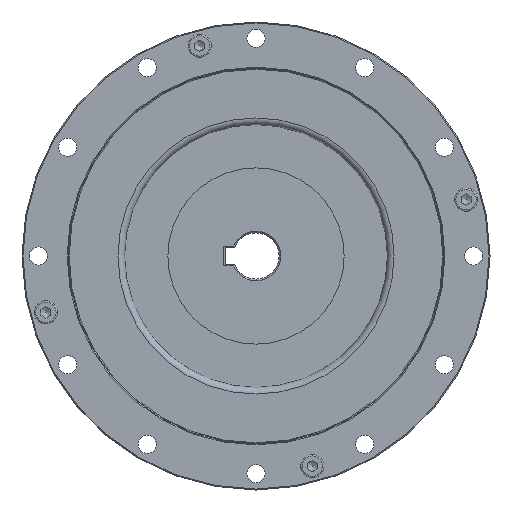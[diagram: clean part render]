
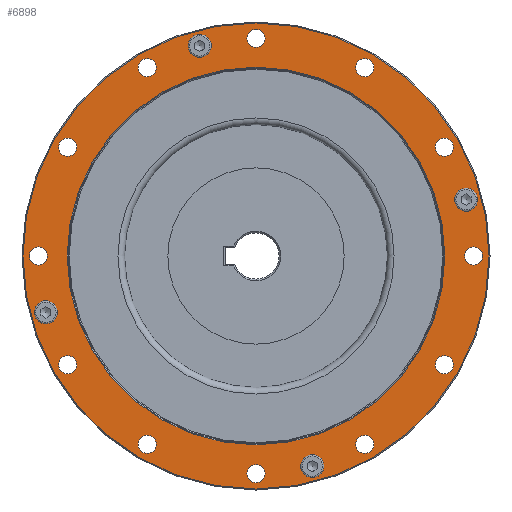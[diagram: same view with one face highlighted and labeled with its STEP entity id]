
A CAD part, left-side view. The second image highlights one B-rep face of the part: STEP entity #6898.
In plain terms, the highlighted planar face has unit normal (-1, 0, 0).
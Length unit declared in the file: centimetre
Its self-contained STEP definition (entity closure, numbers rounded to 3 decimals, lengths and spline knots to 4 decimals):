
#989=FACE_BOUND('',#2037,.T.);
#990=FACE_BOUND('',#2038,.T.);
#991=FACE_BOUND('',#2039,.T.);
#992=FACE_BOUND('',#2040,.T.);
#993=FACE_BOUND('',#2041,.T.);
#994=FACE_BOUND('',#2042,.T.);
#995=FACE_BOUND('',#2043,.T.);
#996=FACE_BOUND('',#2044,.T.);
#997=FACE_BOUND('',#2045,.T.);
#998=FACE_BOUND('',#2046,.T.);
#999=FACE_BOUND('',#2047,.T.);
#1000=FACE_BOUND('',#2048,.T.);
#1001=FACE_BOUND('',#2049,.T.);
#1002=FACE_BOUND('',#2050,.T.);
#1003=FACE_BOUND('',#2051,.T.);
#1004=FACE_BOUND('',#2052,.T.);
#1005=FACE_BOUND('',#2053,.T.);
#1407=FACE_OUTER_BOUND('',#2036,.T.);
#2036=EDGE_LOOP('',(#5571));
#2037=EDGE_LOOP('',(#5572));
#2038=EDGE_LOOP('',(#5573));
#2039=EDGE_LOOP('',(#5574));
#2040=EDGE_LOOP('',(#5575));
#2041=EDGE_LOOP('',(#5576));
#2042=EDGE_LOOP('',(#5577));
#2043=EDGE_LOOP('',(#5578));
#2044=EDGE_LOOP('',(#5579));
#2045=EDGE_LOOP('',(#5580));
#2046=EDGE_LOOP('',(#5581));
#2047=EDGE_LOOP('',(#5582));
#2048=EDGE_LOOP('',(#5583));
#2049=EDGE_LOOP('',(#5584));
#2050=EDGE_LOOP('',(#5585));
#2051=EDGE_LOOP('',(#5586));
#2052=EDGE_LOOP('',(#5587));
#2053=EDGE_LOOP('',(#5588));
#2552=CIRCLE('',#7591,0.35);
#2555=CIRCLE('',#7604,0.35);
#2669=CIRCLE('',#7842,0.275);
#2670=CIRCLE('',#7844,0.275);
#2671=CIRCLE('',#7846,0.275);
#2672=CIRCLE('',#7848,0.275);
#2673=CIRCLE('',#7850,0.275);
#2674=CIRCLE('',#7852,0.275);
#2675=CIRCLE('',#7854,0.275);
#2676=CIRCLE('',#7856,0.275);
#2677=CIRCLE('',#7858,0.275);
#2678=CIRCLE('',#7860,0.275);
#2679=CIRCLE('',#7862,0.275);
#2680=CIRCLE('',#7864,0.275);
#2682=CIRCLE('',#7867,5.73);
#2686=CIRCLE('',#7876,7.07);
#2687=CIRCLE('',#7877,0.35);
#2688=CIRCLE('',#7878,0.35);
#3034=VERTEX_POINT('',#11286);
#3049=VERTEX_POINT('',#11344);
#3193=VERTEX_POINT('',#11810);
#3194=VERTEX_POINT('',#11813);
#3195=VERTEX_POINT('',#11816);
#3196=VERTEX_POINT('',#11819);
#3197=VERTEX_POINT('',#11822);
#3198=VERTEX_POINT('',#11825);
#3199=VERTEX_POINT('',#11828);
#3200=VERTEX_POINT('',#11831);
#3201=VERTEX_POINT('',#11834);
#3202=VERTEX_POINT('',#11837);
#3203=VERTEX_POINT('',#11840);
#3204=VERTEX_POINT('',#11843);
#3206=VERTEX_POINT('',#11848);
#3210=VERTEX_POINT('',#11861);
#3211=VERTEX_POINT('',#11863);
#3212=VERTEX_POINT('',#11865);
#3802=EDGE_CURVE('',#3034,#3034,#2552,.T.);
#3823=EDGE_CURVE('',#3049,#3049,#2555,.T.);
#3985=EDGE_CURVE('',#3193,#3193,#2669,.T.);
#3986=EDGE_CURVE('',#3194,#3194,#2670,.T.);
#3987=EDGE_CURVE('',#3195,#3195,#2671,.T.);
#3988=EDGE_CURVE('',#3196,#3196,#2672,.T.);
#3989=EDGE_CURVE('',#3197,#3197,#2673,.T.);
#3990=EDGE_CURVE('',#3198,#3198,#2674,.T.);
#3991=EDGE_CURVE('',#3199,#3199,#2675,.T.);
#3992=EDGE_CURVE('',#3200,#3200,#2676,.T.);
#3993=EDGE_CURVE('',#3201,#3201,#2677,.T.);
#3994=EDGE_CURVE('',#3202,#3202,#2678,.T.);
#3995=EDGE_CURVE('',#3203,#3203,#2679,.T.);
#3996=EDGE_CURVE('',#3204,#3204,#2680,.T.);
#3998=EDGE_CURVE('',#3206,#3206,#2682,.T.);
#4002=EDGE_CURVE('',#3210,#3210,#2686,.T.);
#4003=EDGE_CURVE('',#3211,#3211,#2687,.T.);
#4004=EDGE_CURVE('',#3212,#3212,#2688,.T.);
#5571=ORIENTED_EDGE('',*,*,#4002,.F.);
#5572=ORIENTED_EDGE('',*,*,#4003,.T.);
#5573=ORIENTED_EDGE('',*,*,#3802,.T.);
#5574=ORIENTED_EDGE('',*,*,#4004,.T.);
#5575=ORIENTED_EDGE('',*,*,#3823,.T.);
#5576=ORIENTED_EDGE('',*,*,#3998,.F.);
#5577=ORIENTED_EDGE('',*,*,#3996,.T.);
#5578=ORIENTED_EDGE('',*,*,#3995,.T.);
#5579=ORIENTED_EDGE('',*,*,#3994,.T.);
#5580=ORIENTED_EDGE('',*,*,#3993,.T.);
#5581=ORIENTED_EDGE('',*,*,#3992,.T.);
#5582=ORIENTED_EDGE('',*,*,#3991,.T.);
#5583=ORIENTED_EDGE('',*,*,#3990,.T.);
#5584=ORIENTED_EDGE('',*,*,#3989,.T.);
#5585=ORIENTED_EDGE('',*,*,#3988,.T.);
#5586=ORIENTED_EDGE('',*,*,#3987,.T.);
#5587=ORIENTED_EDGE('',*,*,#3986,.T.);
#5588=ORIENTED_EDGE('',*,*,#3985,.T.);
#6025=PLANE('',#7875);
#6898=ADVANCED_FACE('',(#1407,#989,#990,#991,#992,#993,#994,#995,#996,#997,
#998,#999,#1000,#1001,#1002,#1003,#1004,#1005),#6025,.T.);
#7591=AXIS2_PLACEMENT_3D('',#11287,#9323,#9324);
#7604=AXIS2_PLACEMENT_3D('',#11345,#9361,#9362);
#7842=AXIS2_PLACEMENT_3D('',#11811,#9867,#9868);
#7844=AXIS2_PLACEMENT_3D('',#11814,#9871,#9872);
#7846=AXIS2_PLACEMENT_3D('',#11817,#9875,#9876);
#7848=AXIS2_PLACEMENT_3D('',#11820,#9879,#9880);
#7850=AXIS2_PLACEMENT_3D('',#11823,#9883,#9884);
#7852=AXIS2_PLACEMENT_3D('',#11826,#9887,#9888);
#7854=AXIS2_PLACEMENT_3D('',#11829,#9891,#9892);
#7856=AXIS2_PLACEMENT_3D('',#11832,#9895,#9896);
#7858=AXIS2_PLACEMENT_3D('',#11835,#9899,#9900);
#7860=AXIS2_PLACEMENT_3D('',#11838,#9903,#9904);
#7862=AXIS2_PLACEMENT_3D('',#11841,#9907,#9908);
#7864=AXIS2_PLACEMENT_3D('',#11844,#9911,#9912);
#7867=AXIS2_PLACEMENT_3D('',#11849,#9917,#9918);
#7875=AXIS2_PLACEMENT_3D('',#11860,#9933,#9934);
#7876=AXIS2_PLACEMENT_3D('',#11862,#9935,#9936);
#7877=AXIS2_PLACEMENT_3D('',#11864,#9937,#9938);
#7878=AXIS2_PLACEMENT_3D('',#11866,#9939,#9940);
#9323=DIRECTION('center_axis',(1.,0.,0.));
#9324=DIRECTION('ref_axis',(0.,1.,0.));
#9361=DIRECTION('center_axis',(1.,0.,0.));
#9362=DIRECTION('ref_axis',(0.,1.,0.));
#9867=DIRECTION('center_axis',(1.,0.,0.));
#9868=DIRECTION('ref_axis',(0.,0.,
1.));
#9871=DIRECTION('center_axis',(1.,0.,0.));
#9872=DIRECTION('ref_axis',(0.,-0.5,0.866));
#9875=DIRECTION('center_axis',(1.,0.,0.));
#9876=DIRECTION('ref_axis',(0.,-0.866,0.5));
#9879=DIRECTION('center_axis',(1.,0.,0.));
#9880=DIRECTION('ref_axis',(0.,-1.,0.));
#9883=DIRECTION('center_axis',(1.,0.,0.));
#9884=DIRECTION('ref_axis',(0.,-0.866,-0.5));
#9887=DIRECTION('center_axis',(1.,0.,0.));
#9888=DIRECTION('ref_axis',(0.,-0.5,-0.866));
#9891=DIRECTION('center_axis',(1.,0.,0.));
#9892=DIRECTION('ref_axis',(0.,0.,
-1.));
#9895=DIRECTION('center_axis',(1.,0.,0.));
#9896=DIRECTION('ref_axis',(0.,0.5,-0.866));
#9899=DIRECTION('center_axis',(1.,0.,0.));
#9900=DIRECTION('ref_axis',(0.,0.866,-0.5));
#9903=DIRECTION('center_axis',(1.,0.,0.));
#9904=DIRECTION('ref_axis',(0.,1.,0.));
#9907=DIRECTION('center_axis',(1.,0.,0.));
#9908=DIRECTION('ref_axis',(0.,0.866,0.5));
#9911=DIRECTION('center_axis',(1.,0.,0.));
#9912=DIRECTION('ref_axis',(0.,0.5,0.866));
#9917=DIRECTION('center_axis',(-1.,0.,0.));
#9918=DIRECTION('ref_axis',(0.,-1.,0.));
#9933=DIRECTION('center_axis',(-1.,0.,0.));
#9934=DIRECTION('ref_axis',(0.,0.,1.));
#9935=DIRECTION('center_axis',(1.,0.,0.));
#9936=DIRECTION('ref_axis',(0.,-1.,0.));
#9937=DIRECTION('center_axis',(1.,0.,0.));
#9938=DIRECTION('ref_axis',(0.,1.,0.));
#9939=DIRECTION('center_axis',(1.,0.,0.));
#9940=DIRECTION('ref_axis',(0.,1.,0.));
#11286=CARTESIAN_POINT('',(-0.36,-6.0251,1.7082));
#11287=CARTESIAN_POINT('Origin',(-0.36,-6.3751,1.7082));
#11344=CARTESIAN_POINT('',(-0.36,2.0582,6.3751));
#11345=CARTESIAN_POINT('Origin',(-0.36,1.7082,6.3751));
#11810=CARTESIAN_POINT('',(-0.36,6.6,0.275));
#11811=CARTESIAN_POINT('Origin',(-0.36,6.6,0.));
#11813=CARTESIAN_POINT('',(-0.36,5.5783,3.5382));
#11814=CARTESIAN_POINT('Origin',(-0.36,5.7158,3.3));
#11816=CARTESIAN_POINT('',(-0.36,3.0618,5.8533));
#11817=CARTESIAN_POINT('Origin',(-0.36,3.3,5.7158));
#11819=CARTESIAN_POINT('',(-0.36,-0.275,6.6));
#11820=CARTESIAN_POINT('Origin',(-0.36,0.,
6.6));
#11822=CARTESIAN_POINT('',(-0.36,-3.5382,5.5783));
#11823=CARTESIAN_POINT('Origin',(-0.36,-3.3,5.7158));
#11825=CARTESIAN_POINT('',(-0.36,-5.8533,3.0618));
#11826=CARTESIAN_POINT('Origin',(-0.36,-5.7158,3.3));
#11828=CARTESIAN_POINT('',(-0.36,-6.6,-0.275));
#11829=CARTESIAN_POINT('Origin',(-0.36,-6.6,0.));
#11831=CARTESIAN_POINT('',(-0.36,-5.5783,-3.5382));
#11832=CARTESIAN_POINT('Origin',(-0.36,-5.7158,-3.3));
#11834=CARTESIAN_POINT('',(-0.36,-3.0618,-5.8533));
#11835=CARTESIAN_POINT('Origin',(-0.36,-3.3,-5.7158));
#11837=CARTESIAN_POINT('',(-0.36,0.275,-6.6));
#11838=CARTESIAN_POINT('Origin',(-0.36,0.,
-6.6));
#11840=CARTESIAN_POINT('',(-0.36,3.5382,-5.5783));
#11841=CARTESIAN_POINT('Origin',(-0.36,3.3,-5.7158));
#11843=CARTESIAN_POINT('',(-0.36,5.8533,-3.0618));
#11844=CARTESIAN_POINT('Origin',(-0.36,5.7158,-3.3));
#11848=CARTESIAN_POINT('',(-0.36,5.73,0.));
#11849=CARTESIAN_POINT('Origin',(-0.36,0.,
0.));
#11860=CARTESIAN_POINT('Origin',(-0.36,7.1,0.));
#11861=CARTESIAN_POINT('',(-0.36,7.07,0.));
#11862=CARTESIAN_POINT('Origin',(-0.36,0.,
0.));
#11863=CARTESIAN_POINT('',(-0.36,6.7251,-1.7082));
#11864=CARTESIAN_POINT('Origin',(-0.36,6.3751,-1.7082));
#11865=CARTESIAN_POINT('',(-0.36,-1.3582,-6.3751));
#11866=CARTESIAN_POINT('Origin',(-0.36,-1.7082,-6.3751));
